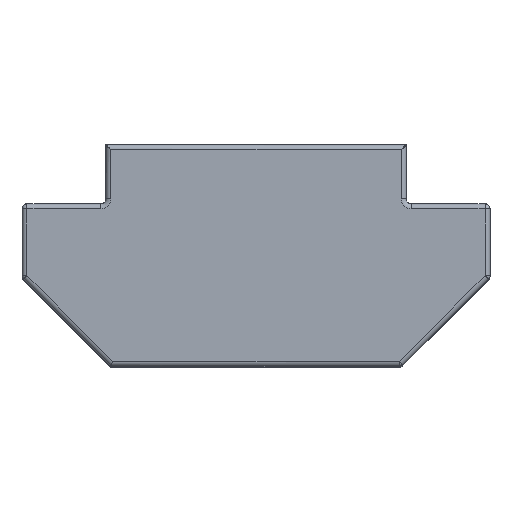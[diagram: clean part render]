
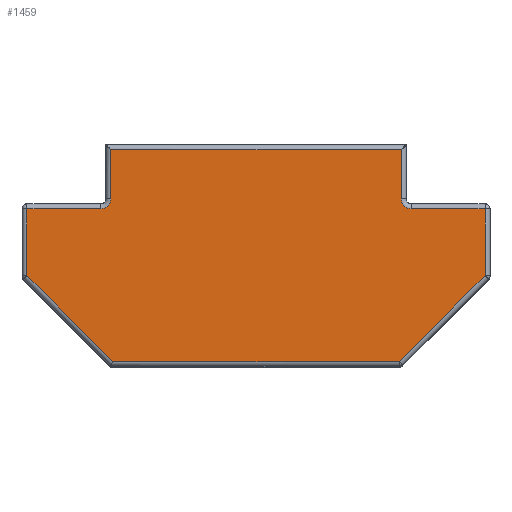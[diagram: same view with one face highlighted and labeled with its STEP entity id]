
A CAD part, top view. The second image highlights one B-rep face of the part: STEP entity #1459.
In plain terms, the highlighted planar face has unit normal (0, 0, 1).
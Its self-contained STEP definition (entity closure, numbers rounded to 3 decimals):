
#16 = VECTOR ( 'NONE', #2055, 1000. ) ;
#60 = ORIENTED_EDGE ( 'NONE', *, *, #690, .T. ) ;
#80 = EDGE_LOOP ( 'NONE', ( #1036, #592, #986, #2316, #1624, #3268, #776, #60, #3255, #2984, #1084, #2214 ) ) ;
#101 = CARTESIAN_POINT ( 'NONE',  ( -4.65, -0.409, 4.75 ) ) ;
#127 = VERTEX_POINT ( 'NONE', #208 ) ;
#137 = CARTESIAN_POINT ( 'NONE',  ( 3.15, 0.95, 4.75 ) ) ;
#180 = VERTEX_POINT ( 'NONE', #411 ) ;
#207 = LINE ( 'NONE', #1302, #16 ) ;
#208 = CARTESIAN_POINT ( 'NONE',  ( 2.909, -2.15, 4.75 ) ) ;
#321 = DIRECTION ( 'NONE',  ( -1., 0., 0. ) ) ;
#324 = DIRECTION ( 'NONE',  ( -1., 0., 0. ) ) ;
#411 = CARTESIAN_POINT ( 'NONE',  ( -2.95, 2.15, 4.75 ) ) ;
#434 = VERTEX_POINT ( 'NONE', #1127 ) ;
#445 = EDGE_CURVE ( 'NONE', #2779, #180, #1851, .T. ) ;
#446 = LINE ( 'NONE', #997, #2174 ) ;
#500 = CARTESIAN_POINT ( 'NONE',  ( -4.65, 0.95, 4.75 ) ) ;
#583 = VECTOR ( 'NONE', #1653, 1000. ) ;
#592 = ORIENTED_EDGE ( 'NONE', *, *, #1378, .T. ) ;
#690 = EDGE_CURVE ( 'NONE', #931, #3232, #207, .T. ) ;
#713 = DIRECTION ( 'NONE',  ( -1., 0., 0. ) ) ;
#772 = VERTEX_POINT ( 'NONE', #2785 ) ;
#776 = ORIENTED_EDGE ( 'NONE', *, *, #830, .T. ) ;
#830 = EDGE_CURVE ( 'NONE', #1941, #931, #1181, .T. ) ;
#842 = CIRCLE ( 'NONE', #1803, 0.2 ) ;
#931 = VERTEX_POINT ( 'NONE', #500 ) ;
#941 = DIRECTION ( 'NONE',  ( 1., 0., 0. ) ) ;
#986 = ORIENTED_EDGE ( 'NONE', *, *, #2835, .T. ) ;
#997 = CARTESIAN_POINT ( 'NONE',  ( 2.95, 0., 4.75 ) ) ;
#998 = VECTOR ( 'NONE', #1703, 1000. ) ;
#1036 = ORIENTED_EDGE ( 'NONE', *, *, #2475, .T. ) ;
#1060 = VECTOR ( 'NONE', #941, 1000. ) ;
#1084 = ORIENTED_EDGE ( 'NONE', *, *, #1189, .T. ) ;
#1123 = EDGE_CURVE ( 'NONE', #3232, #1571, #1881, .T. ) ;
#1127 = CARTESIAN_POINT ( 'NONE',  ( 4.65, -0.409, 4.75 ) ) ;
#1181 = LINE ( 'NONE', #2266, #2058 ) ;
#1189 = EDGE_CURVE ( 'NONE', #127, #434, #2721, .T. ) ;
#1204 = AXIS2_PLACEMENT_3D ( 'NONE', #2578, #2613, #321 ) ;
#1302 = CARTESIAN_POINT ( 'NONE',  ( -4.65, 0., 4.75 ) ) ;
#1378 = EDGE_CURVE ( 'NONE', #1712, #772, #842, .T. ) ;
#1387 = CIRCLE ( 'NONE', #2119, 0.2 ) ;
#1452 = DIRECTION ( 'NONE',  ( -1., 0., 0. ) ) ;
#1459 = ADVANCED_FACE ( 'NONE', ( #1562 ), #2304, .F. ) ;
#1464 = DIRECTION ( 'NONE',  ( -1., 0., 0. ) ) ;
#1528 = VECTOR ( 'NONE', #324, 1000. ) ;
#1562 = FACE_OUTER_BOUND ( 'NONE', #80, .T. ) ;
#1571 = VERTEX_POINT ( 'NONE', #2035 ) ;
#1624 = ORIENTED_EDGE ( 'NONE', *, *, #1971, .T. ) ;
#1637 = CARTESIAN_POINT ( 'NONE',  ( 0., 2.15, 4.75 ) ) ;
#1653 = DIRECTION ( 'NONE',  ( 0., -1., 0. ) ) ;
#1687 = CARTESIAN_POINT ( 'NONE',  ( 2.529, -2.529, 4.75 ) ) ;
#1703 = DIRECTION ( 'NONE',  ( 0.707, 0.707, 0. ) ) ;
#1709 = CARTESIAN_POINT ( 'NONE',  ( -2.95, 0., 4.75 ) ) ;
#1711 = DIRECTION ( 'NONE',  ( 0., 0., -1. ) ) ;
#1712 = VERTEX_POINT ( 'NONE', #137 ) ;
#1771 = LINE ( 'NONE', #2033, #2007 ) ;
#1803 = AXIS2_PLACEMENT_3D ( 'NONE', #1917, #1711, #1452 ) ;
#1851 = LINE ( 'NONE', #1637, #1528 ) ;
#1881 = LINE ( 'NONE', #2966, #2000 ) ;
#1917 = CARTESIAN_POINT ( 'NONE',  ( 3.15, 1.15, 4.75 ) ) ;
#1941 = VERTEX_POINT ( 'NONE', #2546 ) ;
#1971 = EDGE_CURVE ( 'NONE', #180, #2178, #2435, .T. ) ;
#2000 = VECTOR ( 'NONE', #2195, 1000. ) ;
#2007 = VECTOR ( 'NONE', #2993, 1000. ) ;
#2008 = DIRECTION ( 'NONE',  ( 0., 1., 0. ) ) ;
#2011 = EDGE_CURVE ( 'NONE', #2178, #1941, #1387, .T. ) ;
#2030 = LINE ( 'NONE', #2232, #2870 ) ;
#2033 = CARTESIAN_POINT ( 'NONE',  ( 4.65, 0., 4.75 ) ) ;
#2035 = CARTESIAN_POINT ( 'NONE',  ( -2.909, -2.15, 4.75 ) ) ;
#2055 = DIRECTION ( 'NONE',  ( 0., -1., 0. ) ) ;
#2058 = VECTOR ( 'NONE', #1464, 1000. ) ;
#2098 = EDGE_CURVE ( 'NONE', #1571, #127, #3195, .T. ) ;
#2119 = AXIS2_PLACEMENT_3D ( 'NONE', #2961, #2911, #2698 ) ;
#2174 = VECTOR ( 'NONE', #2008, 1000. ) ;
#2178 = VERTEX_POINT ( 'NONE', #3007 ) ;
#2187 = EDGE_CURVE ( 'NONE', #434, #3121, #1771, .T. ) ;
#2195 = DIRECTION ( 'NONE',  ( 0.707, -0.707, 0. ) ) ;
#2214 = ORIENTED_EDGE ( 'NONE', *, *, #2187, .T. ) ;
#2232 = CARTESIAN_POINT ( 'NONE',  ( 0., 0.95, 4.75 ) ) ;
#2266 = CARTESIAN_POINT ( 'NONE',  ( 0., 0.95, 4.75 ) ) ;
#2304 = PLANE ( 'NONE',  #1204 ) ;
#2316 = ORIENTED_EDGE ( 'NONE', *, *, #445, .T. ) ;
#2435 = LINE ( 'NONE', #1709, #583 ) ;
#2475 = EDGE_CURVE ( 'NONE', #3121, #1712, #2030, .T. ) ;
#2546 = CARTESIAN_POINT ( 'NONE',  ( -3.15, 0.95, 4.75 ) ) ;
#2578 = CARTESIAN_POINT ( 'NONE',  ( 0., 0., 4.75 ) ) ;
#2605 = CARTESIAN_POINT ( 'NONE',  ( 4.65, 0.95, 4.75 ) ) ;
#2613 = DIRECTION ( 'NONE',  ( 0., 0., -1. ) ) ;
#2698 = DIRECTION ( 'NONE',  ( -1., 0., 0. ) ) ;
#2721 = LINE ( 'NONE', #1687, #998 ) ;
#2779 = VERTEX_POINT ( 'NONE', #2967 ) ;
#2785 = CARTESIAN_POINT ( 'NONE',  ( 2.95, 1.15, 4.75 ) ) ;
#2835 = EDGE_CURVE ( 'NONE', #772, #2779, #446, .T. ) ;
#2870 = VECTOR ( 'NONE', #713, 1000. ) ;
#2911 = DIRECTION ( 'NONE',  ( 0., 0., -1. ) ) ;
#2961 = CARTESIAN_POINT ( 'NONE',  ( -3.15, 1.15, 4.75 ) ) ;
#2966 = CARTESIAN_POINT ( 'NONE',  ( -2.529, -2.529, 4.75 ) ) ;
#2967 = CARTESIAN_POINT ( 'NONE',  ( 2.95, 2.15, 4.75 ) ) ;
#2984 = ORIENTED_EDGE ( 'NONE', *, *, #2098, .T. ) ;
#2993 = DIRECTION ( 'NONE',  ( 0., 1., 0. ) ) ;
#3007 = CARTESIAN_POINT ( 'NONE',  ( -2.95, 1.15, 4.75 ) ) ;
#3121 = VERTEX_POINT ( 'NONE', #2605 ) ;
#3195 = LINE ( 'NONE', #3210, #1060 ) ;
#3210 = CARTESIAN_POINT ( 'NONE',  ( 0., -2.15, 4.75 ) ) ;
#3232 = VERTEX_POINT ( 'NONE', #101 ) ;
#3255 = ORIENTED_EDGE ( 'NONE', *, *, #1123, .T. ) ;
#3268 = ORIENTED_EDGE ( 'NONE', *, *, #2011, .T. ) ;
